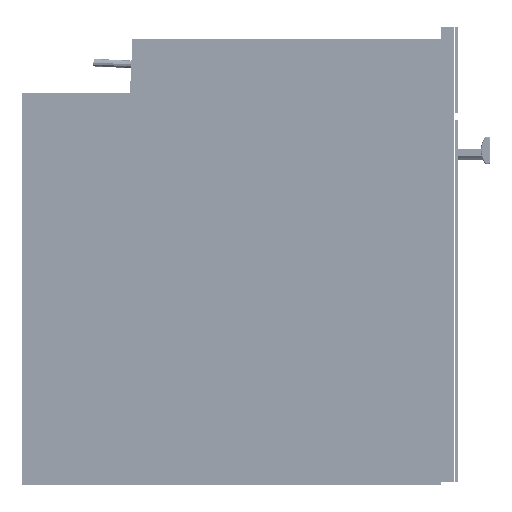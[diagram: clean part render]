
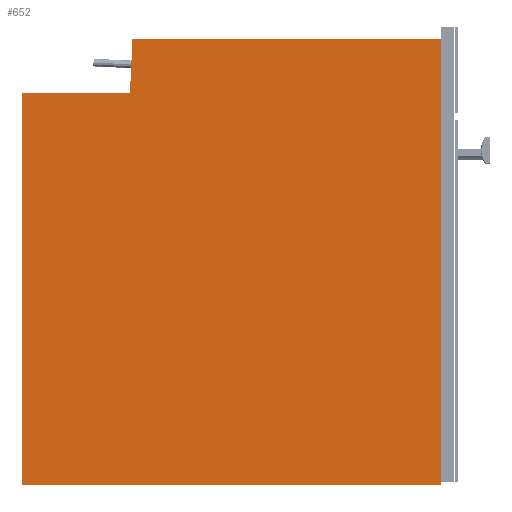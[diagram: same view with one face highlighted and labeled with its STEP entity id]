
A CAD part, front view. The second image highlights one B-rep face of the part: STEP entity #652.
In plain terms, the highlighted free-form (B-spline) face has degree [1, 1] with [2, 2] control points.
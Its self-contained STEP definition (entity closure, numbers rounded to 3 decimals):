
#652=ADVANCED_FACE('',(#855),#2457,.T.);
#855=FACE_OUTER_BOUND('',#1060,.T.);
#1060=EDGE_LOOP('',(#1345,#1346,#1347,#1348,#1349,#1350));
#1345=ORIENTED_EDGE('',*,*,#1939,.T.);
#1346=ORIENTED_EDGE('',*,*,#1942,.T.);
#1347=ORIENTED_EDGE('',*,*,#1953,.T.);
#1348=ORIENTED_EDGE('',*,*,#1956,.T.);
#1349=ORIENTED_EDGE('',*,*,#1958,.T.);
#1350=ORIENTED_EDGE('',*,*,#1935,.T.);
#1935=EDGE_CURVE('',#2252,#2251,#2622,.T.);
#1939=EDGE_CURVE('',#2251,#2254,#2626,.T.);
#1942=EDGE_CURVE('',#2254,#2256,#2629,.T.);
#1953=EDGE_CURVE('',#2256,#2266,#2640,.T.);
#1956=EDGE_CURVE('',#2266,#2268,#2643,.T.);
#1958=EDGE_CURVE('',#2268,#2252,#2645,.T.);
#2251=VERTEX_POINT('',#3162);
#2252=VERTEX_POINT('',#3163);
#2254=VERTEX_POINT('',#3165);
#2256=VERTEX_POINT('',#3167);
#2266=VERTEX_POINT('',#3177);
#2268=VERTEX_POINT('',#3179);
#2457=B_SPLINE_SURFACE_WITH_KNOTS('',1,1,((#3116,#3117),(#3118,#3119)),.UNSPECIFIED.,
.F.,.F.,.F.,(2,2),(2,2),(0.283,0.629),(0.311,
0.637),.UNSPECIFIED.);
#2622=B_SPLINE_CURVE_WITH_KNOTS('',1,(#2996,#2997),.UNSPECIFIED.,.F.,.F.,
(2,2),(0.,1.),.UNSPECIFIED.);
#2626=B_SPLINE_CURVE_WITH_KNOTS('',1,(#3004,#3005),.UNSPECIFIED.,.F.,.F.,
(2,2),(0.,1.),.UNSPECIFIED.);
#2629=B_SPLINE_CURVE_WITH_KNOTS('',1,(#3010,#3011),.UNSPECIFIED.,.F.,.F.,
(2,2),(0.,1.),.UNSPECIFIED.);
#2640=B_SPLINE_CURVE_WITH_KNOTS('',1,(#3040,#3041),.UNSPECIFIED.,.F.,.F.,
(2,2),(0.,1.),.UNSPECIFIED.);
#2643=B_SPLINE_CURVE_WITH_KNOTS('',1,(#3046,#3047),.UNSPECIFIED.,.F.,.F.,
(2,2),(0.,1.),.UNSPECIFIED.);
#2645=B_SPLINE_CURVE_WITH_KNOTS('',1,(#3050,#3051),.UNSPECIFIED.,.F.,.F.,
(2,2),(0.,1.),.UNSPECIFIED.);
#2996=CARTESIAN_POINT('',(-545.977,-277.017,510.211));
#2997=CARTESIAN_POINT('',(-545.977,-277.017,-0.239));
#3004=CARTESIAN_POINT('',(-545.977,-277.017,-0.239));
#3005=CARTESIAN_POINT('',(0.012,-277.017,-0.239));
#3010=CARTESIAN_POINT('',(0.012,-277.017,-0.239));
#3011=CARTESIAN_POINT('',(0.012,-277.017,579.87));
#3040=CARTESIAN_POINT('',(0.012,-277.017,579.87));
#3041=CARTESIAN_POINT('',(-402.102,-277.017,579.87));
#3046=CARTESIAN_POINT('',(-402.102,-277.017,579.87));
#3047=CARTESIAN_POINT('',(-405.406,-277.017,510.215));
#3050=CARTESIAN_POINT('',(-405.406,-277.017,510.215));
#3051=CARTESIAN_POINT('',(-545.977,-277.017,510.211));
#3116=CARTESIAN_POINT('',(0.012,-277.017,-0.239));
#3117=CARTESIAN_POINT('',(-545.977,-277.017,-0.239));
#3118=CARTESIAN_POINT('',(0.012,-277.017,579.87));
#3119=CARTESIAN_POINT('',(-545.977,-277.017,579.87));
#3162=CARTESIAN_POINT('',(-545.977,-277.017,-0.239));
#3163=CARTESIAN_POINT('',(-545.977,-277.017,510.211));
#3165=CARTESIAN_POINT('',(0.012,-277.017,-0.239));
#3167=CARTESIAN_POINT('',(0.012,-277.017,579.87));
#3177=CARTESIAN_POINT('',(-402.102,-277.017,579.87));
#3179=CARTESIAN_POINT('',(-405.406,-277.017,510.215));
